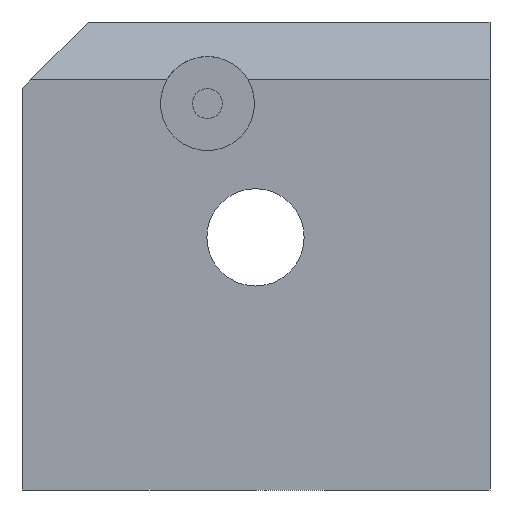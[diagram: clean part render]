
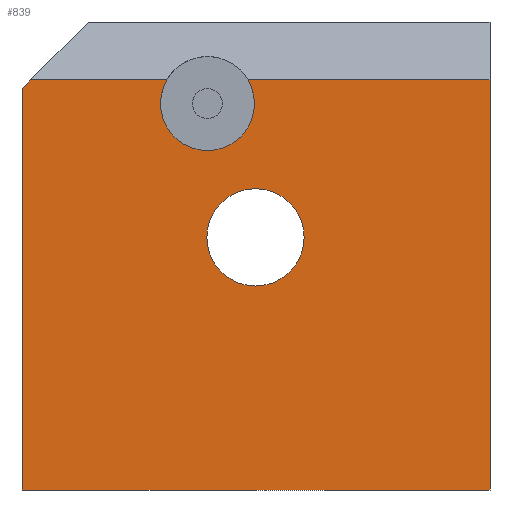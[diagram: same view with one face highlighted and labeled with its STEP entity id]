
A CAD part, left-side view. The second image highlights one B-rep face of the part: STEP entity #839.
In plain terms, the highlighted planar face has unit normal (-1, 0, 0).
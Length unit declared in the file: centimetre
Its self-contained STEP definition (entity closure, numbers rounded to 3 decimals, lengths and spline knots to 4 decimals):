
#4 = CARTESIAN_POINT ( 'NONE',  ( 0., 858.0468, 1000. ) ) ;
#26 = VECTOR ( 'NONE', #667, 100. ) ;
#29 = DIRECTION ( 'NONE',  ( 0., 0., 1. ) ) ;
#47 = CARTESIAN_POINT ( 'NONE',  ( 0., 0., 876.3216 ) ) ;
#54 = CARTESIAN_POINT ( 'NONE',  ( 0., 858.0468, 876.3216 ) ) ;
#61 = DIRECTION ( 'NONE',  ( 0., 0., -1. ) ) ;
#79 = CARTESIAN_POINT ( 'NONE',  ( 0., 0., 0. ) ) ;
#81 = VERTEX_POINT ( 'NONE', #116 ) ;
#85 = EDGE_CURVE ( 'NONE', #778, #240, #304, .T. ) ;
#116 = CARTESIAN_POINT ( 'NONE',  ( 0., 603.7339, 725.3067 ) ) ;
#161 = CARTESIAN_POINT ( 'NONE',  ( 0., 981.7252, 876.3216 ) ) ;
#163 = CARTESIAN_POINT ( 'NONE',  ( 0., 501.0675, 435.8881 ) ) ;
#175 = EDGE_CURVE ( 'NONE', #389, #778, #345, .T. ) ;
#189 = CARTESIAN_POINT ( 'NONE',  ( 0., 690.4979, 876.3216 ) ) ;
#200 = FACE_OUTER_BOUND ( 'NONE', #1015, .T. ) ;
#215 = VERTEX_POINT ( 'NONE', #47 ) ;
#222 = VECTOR ( 'NONE', #370, 100. ) ;
#240 = VERTEX_POINT ( 'NONE', #827 ) ;
#244 = CARTESIAN_POINT ( 'NONE',  ( 0., 603.7339, 825.7388 ) ) ;
#247 = CARTESIAN_POINT ( 'NONE',  ( 0., 858.0468, 876.3216 ) ) ;
#258 = CARTESIAN_POINT ( 'NONE',  ( 0., 0., 1000. ) ) ;
#266 = AXIS2_PLACEMENT_3D ( 'NONE', #244, #648, #1192 ) ;
#283 = VERTEX_POINT ( 'NONE', #163 ) ;
#292 = ORIENTED_EDGE ( 'NONE', *, *, #428, .T. ) ;
#295 = VERTEX_POINT ( 'NONE', #740 ) ;
#304 = LINE ( 'NONE', #4, #828 ) ;
#311 = VERTEX_POINT ( 'NONE', #842 ) ;
#345 = LINE ( 'NONE', #54, #1214 ) ;
#370 = DIRECTION ( 'NONE',  ( 0., 1., 0. ) ) ;
#389 = VERTEX_POINT ( 'NONE', #189 ) ;
#391 = CARTESIAN_POINT ( 'NONE',  ( 0., 501.0675, 539.8403 ) ) ;
#399 = DIRECTION ( 'NONE',  ( 0., 0.707, -0.707 ) ) ;
#428 = EDGE_CURVE ( 'NONE', #311, #914, #490, .T. ) ;
#429 = CARTESIAN_POINT ( 'NONE',  ( 0., 603.7339, 825.7388 ) ) ;
#436 = AXIS2_PLACEMENT_3D ( 'NONE', #429, #1005, #1109 ) ;
#458 = EDGE_CURVE ( 'NONE', #295, #283, #1026, .T. ) ;
#479 = EDGE_CURVE ( 'NONE', #283, #295, #665, .T. ) ;
#490 = LINE ( 'NONE', #1157, #26 ) ;
#506 = ORIENTED_EDGE ( 'NONE', *, *, #458, .F. ) ;
#514 = DIRECTION ( 'NONE',  ( 0., 0., 1. ) ) ;
#516 = DIRECTION ( 'NONE',  ( 1., 0., 0. ) ) ;
#519 = ORIENTED_EDGE ( 'NONE', *, *, #1134, .F. ) ;
#525 = AXIS2_PLACEMENT_3D ( 'NONE', #1174, #1077, #514 ) ;
#599 = DIRECTION ( 'NONE',  ( 0., 0., -1. ) ) ;
#619 = VECTOR ( 'NONE', #744, 100. ) ;
#646 = ORIENTED_EDGE ( 'NONE', *, *, #175, .T. ) ;
#648 = DIRECTION ( 'NONE',  ( -1., 0., 0. ) ) ;
#665 = CIRCLE ( 'NONE', #525, 103.9522 ) ;
#667 = DIRECTION ( 'NONE',  ( 0., -1., 0. ) ) ;
#740 = CARTESIAN_POINT ( 'NONE',  ( 0., 501.0675, 643.7924 ) ) ;
#744 = DIRECTION ( 'NONE',  ( 0., 0., -1. ) ) ;
#751 = EDGE_CURVE ( 'NONE', #240, #311, #1123, .T. ) ;
#763 = ORIENTED_EDGE ( 'NONE', *, *, #479, .F. ) ;
#764 = PLANE ( 'NONE',  #874 ) ;
#778 = VERTEX_POINT ( 'NONE', #161 ) ;
#817 = CIRCLE ( 'NONE', #266, 100.4321 ) ;
#827 = CARTESIAN_POINT ( 'NONE',  ( 0., 1000., 858.0468 ) ) ;
#828 = VECTOR ( 'NONE', #399, 100. ) ;
#830 = EDGE_LOOP ( 'NONE', ( #506, #763 ) ) ;
#839 = ADVANCED_FACE ( 'NONE', ( #1081, #200 ), #764, .F. ) ;
#842 = CARTESIAN_POINT ( 'NONE',  ( 0., 1000., 0. ) ) ;
#870 = VERTEX_POINT ( 'NONE', #984 ) ;
#874 = AXIS2_PLACEMENT_3D ( 'NONE', #1152, #516, #599 ) ;
#893 = ORIENTED_EDGE ( 'NONE', *, *, #985, .F. ) ;
#914 = VERTEX_POINT ( 'NONE', #79 ) ;
#941 = LINE ( 'NONE', #247, #222 ) ;
#964 = EDGE_CURVE ( 'NONE', #389, #81, #817, .T. ) ;
#984 = CARTESIAN_POINT ( 'NONE',  ( 0., 516.9699, 876.3216 ) ) ;
#985 = EDGE_CURVE ( 'NONE', #81, #870, #1020, .T. ) ;
#1005 = DIRECTION ( 'NONE',  ( -1., 0., 0. ) ) ;
#1015 = EDGE_LOOP ( 'NONE', ( #1252, #893, #1159, #646, #1246, #1217, #292, #519 ) ) ;
#1020 = CIRCLE ( 'NONE', #436, 100.4321 ) ;
#1026 = CIRCLE ( 'NONE', #1151, 103.9522 ) ;
#1035 = CARTESIAN_POINT ( 'NONE',  ( 0., 1000., 1000. ) ) ;
#1077 = DIRECTION ( 'NONE',  ( -1., 0., 0. ) ) ;
#1081 = FACE_BOUND ( 'NONE', #830, .T. ) ;
#1099 = VECTOR ( 'NONE', #61, 100. ) ;
#1109 = DIRECTION ( 'NONE',  ( 0., 0., 1. ) ) ;
#1123 = LINE ( 'NONE', #1035, #1099 ) ;
#1134 = EDGE_CURVE ( 'NONE', #215, #914, #1136, .T. ) ;
#1136 = LINE ( 'NONE', #258, #619 ) ;
#1151 = AXIS2_PLACEMENT_3D ( 'NONE', #391, #1162, #29 ) ;
#1152 = CARTESIAN_POINT ( 'NONE',  ( 0., 1000., 1000. ) ) ;
#1157 = CARTESIAN_POINT ( 'NONE',  ( 0., 1000., 0. ) ) ;
#1159 = ORIENTED_EDGE ( 'NONE', *, *, #964, .F. ) ;
#1162 = DIRECTION ( 'NONE',  ( -1., 0., 0. ) ) ;
#1174 = CARTESIAN_POINT ( 'NONE',  ( 0., 501.0675, 539.8403 ) ) ;
#1192 = DIRECTION ( 'NONE',  ( 0., 0., 1. ) ) ;
#1206 = EDGE_CURVE ( 'NONE', #215, #870, #941, .T. ) ;
#1214 = VECTOR ( 'NONE', #1222, 100. ) ;
#1217 = ORIENTED_EDGE ( 'NONE', *, *, #751, .T. ) ;
#1222 = DIRECTION ( 'NONE',  ( 0., 1., 0. ) ) ;
#1246 = ORIENTED_EDGE ( 'NONE', *, *, #85, .T. ) ;
#1252 = ORIENTED_EDGE ( 'NONE', *, *, #1206, .T. ) ;
